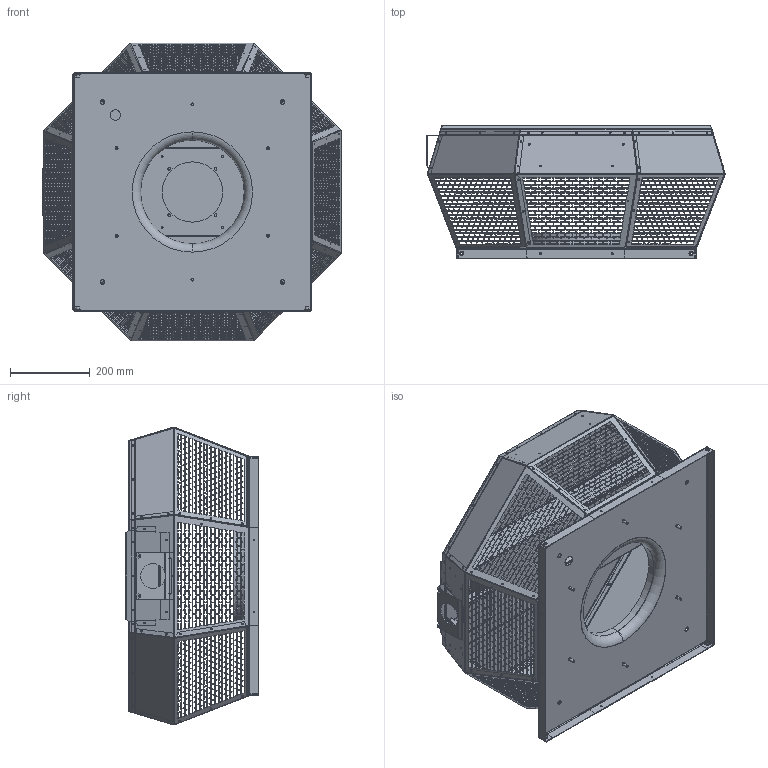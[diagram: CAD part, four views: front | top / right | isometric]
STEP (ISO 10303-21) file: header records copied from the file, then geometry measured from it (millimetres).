
FILE_DESCRIPTION (( 'STEP AP203' ), '1' );
FILE_NAME ('131270_DHA400ECP30.STEP', '2015-02-26T07:20:31', ( '' ), ( '' ), 'SwSTEP 2.0', 'SolidWorks 2012', '' );
FILE_SCHEMA (( 'CONFIG_CONTROL_DESIGN' ));
Length unit declared in the file: millimetre
Products named in the file (1): 131270_DHA400ECP30
Bounding box: 746.93 x 332.97 x 745.01 mm (x, y, z)
Surface area: 3172490.4 mm2 (no closed solid volume)
Topology: 0 solids, 54 shells, 6023 faces, 24656 edges, 17272 vertices
Faces by surface type: plane 5440, cylinder 501, torus 36, bspline 26, cone 20
Entity records: 257307 total; most frequent: CARTESIAN_POINT 49789, ORIENTED_EDGE 40260, DIRECTION 37745, EDGE_CURVE 24656, LINE 23041, VECTOR 23041, VERTEX_POINT 17272, EDGE_LOOP 10180
